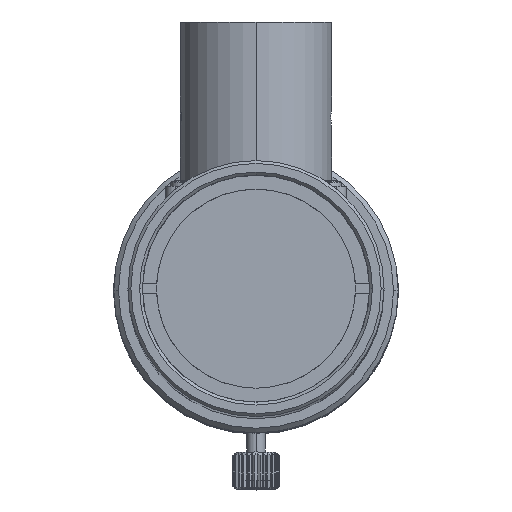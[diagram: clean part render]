
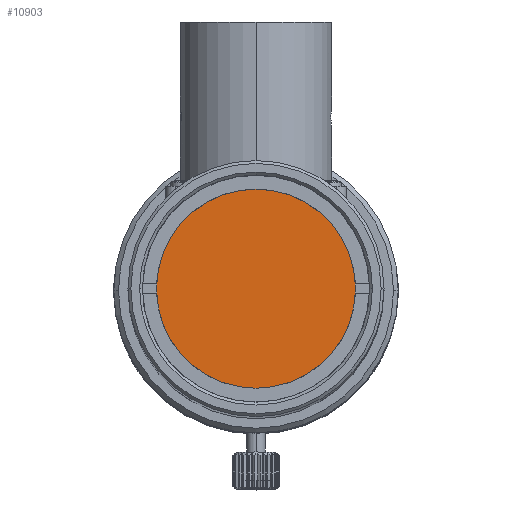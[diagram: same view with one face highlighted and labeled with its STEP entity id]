
A CAD part, top view. The second image highlights one B-rep face of the part: STEP entity #10903.
In plain terms, the highlighted planar face has unit normal (0, 0, 1).
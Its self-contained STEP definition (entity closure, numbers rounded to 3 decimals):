
#137 = EDGE_CURVE ( 'NONE', #18543, #18544, #9691, .T. ) ;
#9663 = DIRECTION ( 'NONE',  ( 1., 0., 0. ) ) ;
#9677 = AXIS2_PLACEMENT_3D ( 'NONE', #9698, #9699, #9663 ) ;
#9691 = CIRCLE ( 'NONE', #9677, 10.5 ) ;
#9698 = CARTESIAN_POINT ( 'NONE',  ( 0., 0., 120.605 ) ) ;
#9699 = DIRECTION ( 'NONE',  ( 0., 0., 1. ) ) ;
#10903 = ADVANCED_FACE ( 'NONE', ( #15344 ), #15347, .F. ) ;
#10905 = ORIENTED_EDGE ( 'NONE', *, *, #18564, .T. ) ;
#10937 = ORIENTED_EDGE ( 'NONE', *, *, #137, .T. ) ;
#10939 = EDGE_LOOP ( 'NONE', ( #10937, #10905 ) ) ;
#12582 = CARTESIAN_POINT ( 'NONE',  ( 10.5, 0., 120.605 ) ) ;
#12589 = CARTESIAN_POINT ( 'NONE',  ( -10.5, 0., 120.605 ) ) ;
#12609 = DIRECTION ( 'NONE',  ( 1., 0., 0. ) ) ;
#12610 = DIRECTION ( 'NONE',  ( 0., 0., 1. ) ) ;
#12611 = CARTESIAN_POINT ( 'NONE',  ( 0., 0., 120.605 ) ) ;
#12612 = AXIS2_PLACEMENT_3D ( 'NONE', #12611, #12610, #12609 ) ;
#12615 = CIRCLE ( 'NONE', #12612, 10.5 ) ;
#15323 = AXIS2_PLACEMENT_3D ( 'NONE', #15343, #15342, #15333 ) ;
#15333 = DIRECTION ( 'NONE',  ( -1., 0., 0. ) ) ;
#15342 = DIRECTION ( 'NONE',  ( 0., 0., -1. ) ) ;
#15343 = CARTESIAN_POINT ( 'NONE',  ( 0., 0., 120.605 ) ) ;
#15344 = FACE_OUTER_BOUND ( 'NONE', #10939, .T. ) ;
#15347 = PLANE ( 'NONE',  #15323 ) ;
#18543 = VERTEX_POINT ( 'NONE', #12582 ) ;
#18544 = VERTEX_POINT ( 'NONE', #12589 ) ;
#18564 = EDGE_CURVE ( 'NONE', #18544, #18543, #12615, .T. ) ;
